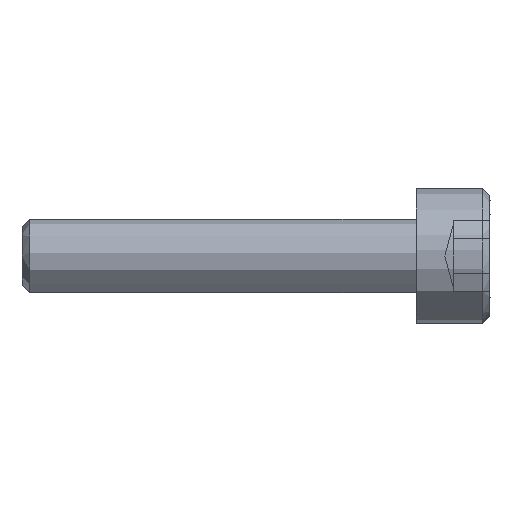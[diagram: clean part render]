
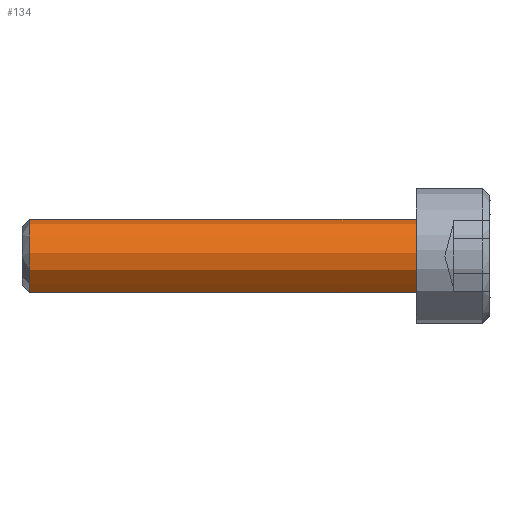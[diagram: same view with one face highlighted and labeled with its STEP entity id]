
A CAD part, left-side view. The second image highlights one B-rep face of the part: STEP entity #134.
In plain terms, the highlighted free-form (B-spline) face has degree [1, 2] with [2, 9] control points.
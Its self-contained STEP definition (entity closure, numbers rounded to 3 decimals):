
#134=ADVANCED_FACE('',(#209),#2248,.T.);
#209=FACE_OUTER_BOUND('',#288,.T.);
#288=EDGE_LOOP('',(#595,#596,#597,#598));
#595=ORIENTED_EDGE('',*,*,#1964,.F.);
#596=ORIENTED_EDGE('',*,*,#1923,.F.);
#597=ORIENTED_EDGE('',*,*,#1965,.T.);
#598=ORIENTED_EDGE('',*,*,#1925,.F.);
#844=PCURVE('',#2243,#1168);
#846=PCURVE('',#2243,#1170);
#917=PCURVE('',#2247,#1241);
#919=PCURVE('',#2248,#1243);
#920=PCURVE('',#2248,#1244);
#921=PCURVE('',#2248,#1245);
#922=PCURVE('',#2248,#1246);
#926=PCURVE('',#2219,#1250);
#1168=DEFINITIONAL_REPRESENTATION('',(#1533),#4285);
#1170=DEFINITIONAL_REPRESENTATION('',(#1536),#4285);
#1241=DEFINITIONAL_REPRESENTATION('',(#1625),#4285);
#1243=DEFINITIONAL_REPRESENTATION('',(#1627),#4285);
#1244=DEFINITIONAL_REPRESENTATION('',(#1628),#4285);
#1245=DEFINITIONAL_REPRESENTATION('',(#1629),#4285);
#1246=DEFINITIONAL_REPRESENTATION('',(#1630),#4285);
#1250=DEFINITIONAL_REPRESENTATION('',(#2072),#4285);
#1532=B_SPLINE_CURVE_WITH_KNOTS('',1,(#3928,#3929),.UNSPECIFIED.,.F.,.F.,
(2,2),(0.,15.694),.UNSPECIFIED.);
#1533=B_SPLINE_CURVE_WITH_KNOTS('',1,(#3930,#3931),.UNSPECIFIED.,.F.,.F.,
(2,2),(0.,15.694),.UNSPECIFIED.);
#1535=B_SPLINE_CURVE_WITH_KNOTS('',1,(#3939,#3940),.UNSPECIFIED.,.F.,.F.,
(2,2),(0.,15.694),.UNSPECIFIED.);
#1536=B_SPLINE_CURVE_WITH_KNOTS('',1,(#3941,#3942),.UNSPECIFIED.,.F.,.F.,
(2,2),(0.,15.694),.UNSPECIFIED.);
#1625=B_SPLINE_CURVE_WITH_KNOTS('',1,(#4192,#4193),.UNSPECIFIED.,.F.,.F.,
(2,2),(0.,4.712),.UNSPECIFIED.);
#1627=B_SPLINE_CURVE_WITH_KNOTS('',1,(#4196,#4197),.UNSPECIFIED.,.F.,.F.,
(2,2),(0.,4.712),.UNSPECIFIED.);
#1628=B_SPLINE_CURVE_WITH_KNOTS('',1,(#4198,#4199),.UNSPECIFIED.,.F.,.F.,
(2,2),(0.,15.694),.UNSPECIFIED.);
#1629=B_SPLINE_CURVE_WITH_KNOTS('',1,(#4205,#4206),.UNSPECIFIED.,.F.,.F.,
(2,2),(0.,4.712),.UNSPECIFIED.);
#1630=B_SPLINE_CURVE_WITH_KNOTS('',1,(#4207,#4208),.UNSPECIFIED.,.F.,.F.,
(2,2),(0.,15.694),.UNSPECIFIED.);
#1761=SURFACE_CURVE('',#1532,(#844,#920),.PCURVE_S1.);
#1763=SURFACE_CURVE('',#1535,(#846,#922),.PCURVE_S1.);
#1802=SURFACE_CURVE('',#2066,(#917,#919),.PCURVE_S1.);
#1803=SURFACE_CURVE('',#2067,(#921,#926),.PCURVE_S1.);
#1923=EDGE_CURVE('',#2152,#2151,#1761,.T.);
#1925=EDGE_CURVE('',#2150,#2149,#1763,.T.);
#1964=EDGE_CURVE('',#2151,#2150,#1802,.T.);
#1965=EDGE_CURVE('',#2152,#2149,#1803,.T.);
#2066=(
BOUNDED_CURVE()
B_SPLINE_CURVE(2,(#4187,#4188,#4189,#4190,#4191),.UNSPECIFIED.,.F.,.F.)
B_SPLINE_CURVE_WITH_KNOTS((3,2,3),(0.,2.356,4.712),
 .UNSPECIFIED.)
CURVE()
GEOMETRIC_REPRESENTATION_ITEM()
RATIONAL_B_SPLINE_CURVE((1.,0.707,1.,0.707,1.))
REPRESENTATION_ITEM('')
);
#2067=(
BOUNDED_CURVE()
B_SPLINE_CURVE(2,(#4200,#4201,#4202,#4203,#4204),.UNSPECIFIED.,.F.,.F.)
B_SPLINE_CURVE_WITH_KNOTS((3,2,3),(0.,2.356,4.712),
 .UNSPECIFIED.)
CURVE()
GEOMETRIC_REPRESENTATION_ITEM()
RATIONAL_B_SPLINE_CURVE((1.,0.707,1.,0.707,1.))
REPRESENTATION_ITEM('')
);
#2072=(
BOUNDED_CURVE()
B_SPLINE_CURVE(2,(#4229,#4230,#4231,#4232,#4233),.UNSPECIFIED.,.F.,.F.)
B_SPLINE_CURVE_WITH_KNOTS((3,2,3),(0.,2.356,4.712),
 .UNSPECIFIED.)
CURVE()
GEOMETRIC_REPRESENTATION_ITEM()
RATIONAL_B_SPLINE_CURVE((1.,0.707,1.,0.707,1.))
REPRESENTATION_ITEM('')
);
#2149=VERTEX_POINT('',#3855);
#2150=VERTEX_POINT('',#3856);
#2151=VERTEX_POINT('',#3857);
#2152=VERTEX_POINT('',#3858);
#2219=PLANE('',#2336);
#2243=(
BOUNDED_SURFACE()
B_SPLINE_SURFACE(1,2,((#3690,#3691,#3692,#3693,#3694,#3695,#3696,#3697,#3698),
(#3699,#3700,#3701,#3702,#3703,#3704,#3705,#3706,#3707)),.UNSPECIFIED.,.F.,
 .F.,.F.)
B_SPLINE_SURFACE_WITH_KNOTS((2,2),(3,2,2,2,3),(0.,18.835),(0.,1.571,
3.142,4.712,6.283),.UNSPECIFIED.)
GEOMETRIC_REPRESENTATION_ITEM()
RATIONAL_B_SPLINE_SURFACE(((1.,0.707,1.,0.707,1.,
0.707,1.,0.707,1.),(1.,0.707,1.,0.707,
1.,0.707,1.,0.707,1.)))
REPRESENTATION_ITEM('')
SURFACE()
);
#2247=(
BOUNDED_SURFACE()
B_SPLINE_SURFACE(1,2,((#3775,#3776,#3777,#3778,#3779,#3780,#3781,#3782,#3783),
(#3784,#3785,#3786,#3787,#3788,#3789,#3790,#3791,#3792)),.UNSPECIFIED.,.F.,
 .F.,.F.)
B_SPLINE_SURFACE_WITH_KNOTS((2,2),(3,2,2,2,3),(0.,2.335),(0.,
1.571,3.142,4.712,6.283),
 .UNSPECIFIED.)
GEOMETRIC_REPRESENTATION_ITEM()
RATIONAL_B_SPLINE_SURFACE(((1.,0.707,1.,0.707,1.,
0.707,1.,0.707,1.),(1.,0.707,1.,0.707,
1.,0.707,1.,0.707,1.)))
REPRESENTATION_ITEM('')
SURFACE()
);
#2248=(
BOUNDED_SURFACE()
B_SPLINE_SURFACE(1,2,((#3793,#3794,#3795,#3796,#3797,#3798,#3799,#3800,#3801),
(#3802,#3803,#3804,#3805,#3806,#3807,#3808,#3809,#3810)),.UNSPECIFIED.,.F.,
 .F.,.F.)
B_SPLINE_SURFACE_WITH_KNOTS((2,2),(3,2,2,2,3),(0.,18.835),(0.,1.571,
3.142,4.712,6.283),.UNSPECIFIED.)
GEOMETRIC_REPRESENTATION_ITEM()
RATIONAL_B_SPLINE_SURFACE(((1.,0.707,1.,0.707,1.,
0.707,1.,0.707,1.),(1.,0.707,1.,0.707,
1.,0.707,1.,0.707,1.)))
REPRESENTATION_ITEM('')
SURFACE()
);
#2336=AXIS2_PLACEMENT_3D('',#3811,#2388,$);
#2388=DIRECTION('',(1.,0.,0.));
#3690=CARTESIAN_POINT('',(-1.571,0.,1.5));
#3691=CARTESIAN_POINT('',(-1.571,1.5,1.5));
#3692=CARTESIAN_POINT('',(-1.571,1.5,0.));
#3693=CARTESIAN_POINT('',(-1.571,1.5,-1.5));
#3694=CARTESIAN_POINT('',(-1.571,0.,-1.5));
#3695=CARTESIAN_POINT('',(-1.571,-1.5,-1.5));
#3696=CARTESIAN_POINT('',(-1.571,-1.5,0.));
#3697=CARTESIAN_POINT('',(-1.571,-1.5,1.5));
#3698=CARTESIAN_POINT('',(-1.571,0.,1.5));
#3699=CARTESIAN_POINT('',(17.264,0.,1.5));
#3700=CARTESIAN_POINT('',(17.264,1.5,1.5));
#3701=CARTESIAN_POINT('',(17.264,1.5,0.));
#3702=CARTESIAN_POINT('',(17.264,1.5,-1.5));
#3703=CARTESIAN_POINT('',(17.264,0.,-1.5));
#3704=CARTESIAN_POINT('',(17.264,-1.5,-1.5));
#3705=CARTESIAN_POINT('',(17.264,-1.5,0.));
#3706=CARTESIAN_POINT('',(17.264,-1.5,1.5));
#3707=CARTESIAN_POINT('',(17.264,0.,1.5));
#3775=CARTESIAN_POINT('',(17.194,0.,0.));
#3776=CARTESIAN_POINT('',(17.194,0.,0.));
#3777=CARTESIAN_POINT('',(17.194,0.,0.));
#3778=CARTESIAN_POINT('',(17.194,0.,0.));
#3779=CARTESIAN_POINT('',(17.194,0.,0.));
#3780=CARTESIAN_POINT('',(17.194,0.,0.));
#3781=CARTESIAN_POINT('',(17.194,0.,0.));
#3782=CARTESIAN_POINT('',(17.194,0.,0.));
#3783=CARTESIAN_POINT('',(17.194,0.,0.));
#3784=CARTESIAN_POINT('',(15.542,0.,-1.651));
#3785=CARTESIAN_POINT('',(15.542,1.651,-1.651));
#3786=CARTESIAN_POINT('',(15.542,1.651,0.));
#3787=CARTESIAN_POINT('',(15.542,1.651,1.651));
#3788=CARTESIAN_POINT('',(15.542,0.,1.651));
#3789=CARTESIAN_POINT('',(15.542,-1.651,1.651));
#3790=CARTESIAN_POINT('',(15.542,-1.651,0.));
#3791=CARTESIAN_POINT('',(15.542,-1.651,-1.651));
#3792=CARTESIAN_POINT('',(15.542,0.,-1.651));
#3793=CARTESIAN_POINT('',(-1.571,0.,-1.5));
#3794=CARTESIAN_POINT('',(-1.571,-1.5,-1.5));
#3795=CARTESIAN_POINT('',(-1.571,-1.5,0.));
#3796=CARTESIAN_POINT('',(-1.571,-1.5,1.5));
#3797=CARTESIAN_POINT('',(-1.571,0.,1.5));
#3798=CARTESIAN_POINT('',(-1.571,1.5,1.5));
#3799=CARTESIAN_POINT('',(-1.571,1.5,0.));
#3800=CARTESIAN_POINT('',(-1.571,1.5,-1.5));
#3801=CARTESIAN_POINT('',(-1.571,0.,-1.5));
#3802=CARTESIAN_POINT('',(17.264,0.,-1.5));
#3803=CARTESIAN_POINT('',(17.264,-1.5,-1.5));
#3804=CARTESIAN_POINT('',(17.264,-1.5,0.));
#3805=CARTESIAN_POINT('',(17.264,-1.5,1.5));
#3806=CARTESIAN_POINT('',(17.264,0.,1.5));
#3807=CARTESIAN_POINT('',(17.264,1.5,1.5));
#3808=CARTESIAN_POINT('',(17.264,1.5,0.));
#3809=CARTESIAN_POINT('',(17.264,1.5,-1.5));
#3810=CARTESIAN_POINT('',(17.264,0.,-1.5));
#3811=CARTESIAN_POINT('',(0.,-3.301,3.301));
#3855=CARTESIAN_POINT('',(0.,-1.5,0.));
#3856=CARTESIAN_POINT('',(15.694,-1.5,0.));
#3857=CARTESIAN_POINT('',(15.694,1.5,0.));
#3858=CARTESIAN_POINT('',(0.,1.5,0.));
#3928=CARTESIAN_POINT('',(0.,1.5,0.));
#3929=CARTESIAN_POINT('',(15.694,1.5,0.));
#3930=CARTESIAN_POINT('',(1.571,1.571));
#3931=CARTESIAN_POINT('',(17.264,1.571));
#3939=CARTESIAN_POINT('',(15.694,-1.5,0.));
#3940=CARTESIAN_POINT('',(0.,-1.5,0.));
#3941=CARTESIAN_POINT('',(17.264,4.712));
#3942=CARTESIAN_POINT('',(1.571,4.712));
#4187=CARTESIAN_POINT('',(15.694,1.5,0.));
#4188=CARTESIAN_POINT('',(15.694,1.5,1.5));
#4189=CARTESIAN_POINT('',(15.694,0.,1.5));
#4190=CARTESIAN_POINT('',(15.694,-1.5,1.5));
#4191=CARTESIAN_POINT('',(15.694,-1.5,0.));
#4192=CARTESIAN_POINT('',(2.121,1.571));
#4193=CARTESIAN_POINT('',(2.121,4.712));
#4196=CARTESIAN_POINT('',(17.264,4.712));
#4197=CARTESIAN_POINT('',(17.264,1.571));
#4198=CARTESIAN_POINT('',(1.571,4.712));
#4199=CARTESIAN_POINT('',(17.264,4.712));
#4200=CARTESIAN_POINT('',(0.,1.5,0.));
#4201=CARTESIAN_POINT('',(0.,1.5,1.5));
#4202=CARTESIAN_POINT('',(0.,0.,1.5));
#4203=CARTESIAN_POINT('',(0.,-1.5,1.5));
#4204=CARTESIAN_POINT('',(0.,-1.5,0.));
#4205=CARTESIAN_POINT('',(1.571,4.712));
#4206=CARTESIAN_POINT('',(1.571,1.571));
#4207=CARTESIAN_POINT('',(17.264,1.571));
#4208=CARTESIAN_POINT('',(1.571,1.571));
#4229=CARTESIAN_POINT('',(0.,3.625));
#4230=CARTESIAN_POINT('',(-1.5,3.625));
#4231=CARTESIAN_POINT('',(-1.5,2.125));
#4232=CARTESIAN_POINT('',(-1.5,0.625));
#4233=CARTESIAN_POINT('',(0.,0.625));
#4285=(
GEOMETRIC_REPRESENTATION_CONTEXT(2)
PARAMETRIC_REPRESENTATION_CONTEXT()
REPRESENTATION_CONTEXT('pspace','')
);
